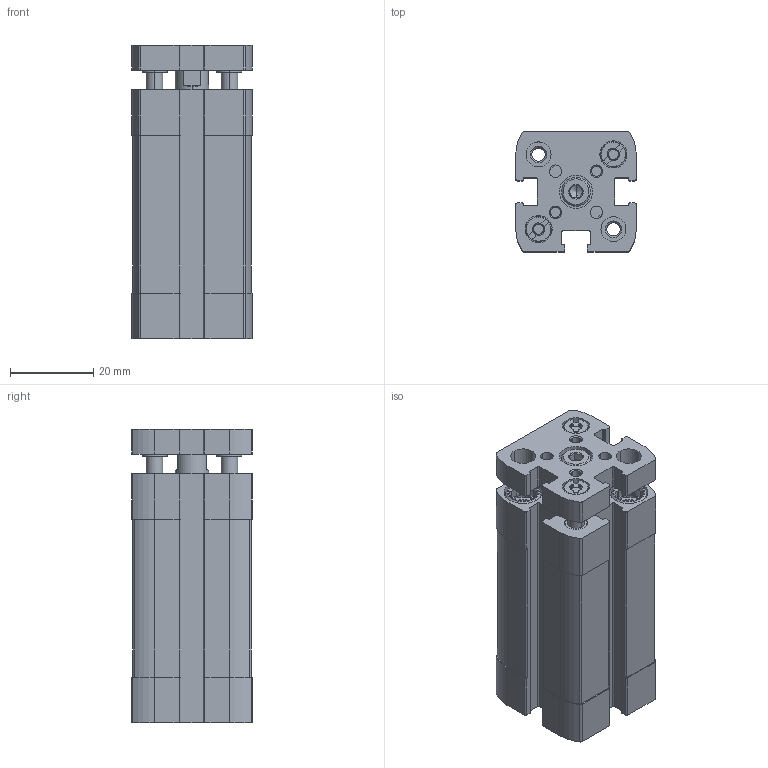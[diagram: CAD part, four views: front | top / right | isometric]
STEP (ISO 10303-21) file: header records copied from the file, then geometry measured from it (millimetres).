
FILE_DESCRIPTION (( 'STEP AP203' ), '1' );
FILE_NAME ('CCNG16-25.STEP', '2017-04-13T14:34:49', ( '' ), ( '' ), 'SwSTEP 2.0', 'SolidWorks 2016', '' );
FILE_SCHEMA (( 'CONFIG_CONTROL_DESIGN' ));
Length unit declared in the file: millimetre
Products named in the file (3): CCNG-16-25--(Z); CCNG-16-25---(KS); CCNG16-25
Assembly tree (2 placements, depth 2):
  CCNG16-25
    CCNG-16-25--(Z)
    CCNG-16-25---(KS)
Bounding box: 29 x 29 x 70.7 mm (x, y, z)
Volume: 40644.2 mm3; surface area: 22856.2 mm2
Topology: 2 solids, 6 shells, 545 faces, 1416 edges, 923 vertices
Faces by surface type: plane 257, cylinder 214, cone 70, bspline 4
Entity records: 17293 total; most frequent: CARTESIAN_POINT 3363, DIRECTION 2906, ORIENTED_EDGE 2828, EDGE_CURVE 1414, AXIS2_PLACEMENT_3D 1078, VERTEX_POINT 923, VECTOR 750, LINE 750
